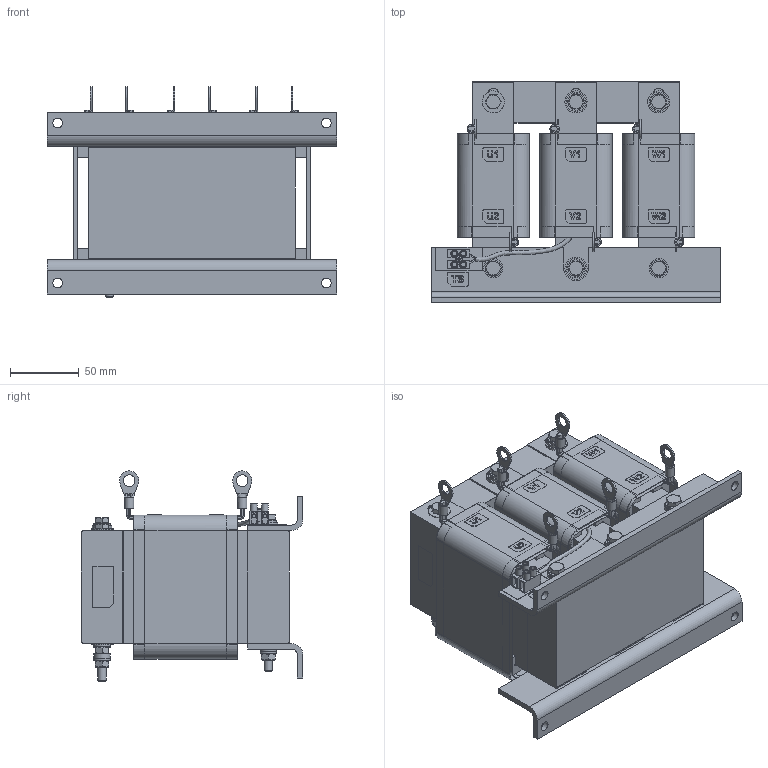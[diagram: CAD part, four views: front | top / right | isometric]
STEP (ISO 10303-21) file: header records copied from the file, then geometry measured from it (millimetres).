
FILE_DESCRIPTION(/* description */ ('raw material description'),/* implementation_level */ '2;1');
FILE_NAME(/* name */ 'C:\Users\Erika.Jenzer\Desktop\Neuer Ordner\FN5060HV-45-99.stp',/* time_stamp */ '2019-11-18T13:38:54+01:00',/* author */ ('erika.jenzer'),/* organization */ ('Schaffner EMV AG'),/* preprocessor_version */ 'ST-DEVELOPER v16.5',/* originating_system */ 'Autodesk Inventor 2017',/* authorisation */ '');
FILE_SCHEMA (('AUTOMOTIVE_DESIGN { 1 0 10303 214 3 1 1 }'));
Products named in the file (1): FN5060HV-45-99
Bounding box: 210 x 160.72 x 152.42 mm (x, y, z)
Volume: 1819238 mm3; surface area: 429203.5 mm2
Topology: 1 solids, 8 shells, 1779 faces, 4833 edges, 3135 vertices
Faces by surface type: plane 1104, cylinder 412, bspline 138, cone 82, torus 42, sphere 1
Full cylindrical faces by diameter (mm): 0.01 x2, 1 x2, 2 x2, 2.5 x1, 2.8 x5, 3 x1, 3.4 x4, 6 x13, 6.1 x6, 6.4 x13, 6.7 x6, 7 x4, 7.6 x5, 7.8 x10, 8 x6, 8.4 x9, 8.7 x6, 12 x11, 13 x1, 14 x5, 16 x5
Entity records: 59740 total; most frequent: CARTESIAN_POINT 14424, ORIENTED_EDGE 9218, DIRECTION 8594, EDGE_CURVE 4602, VERTEX_POINT 3081, LINE 2876, VECTOR 2876, AXIS2_PLACEMENT_3D 2859
